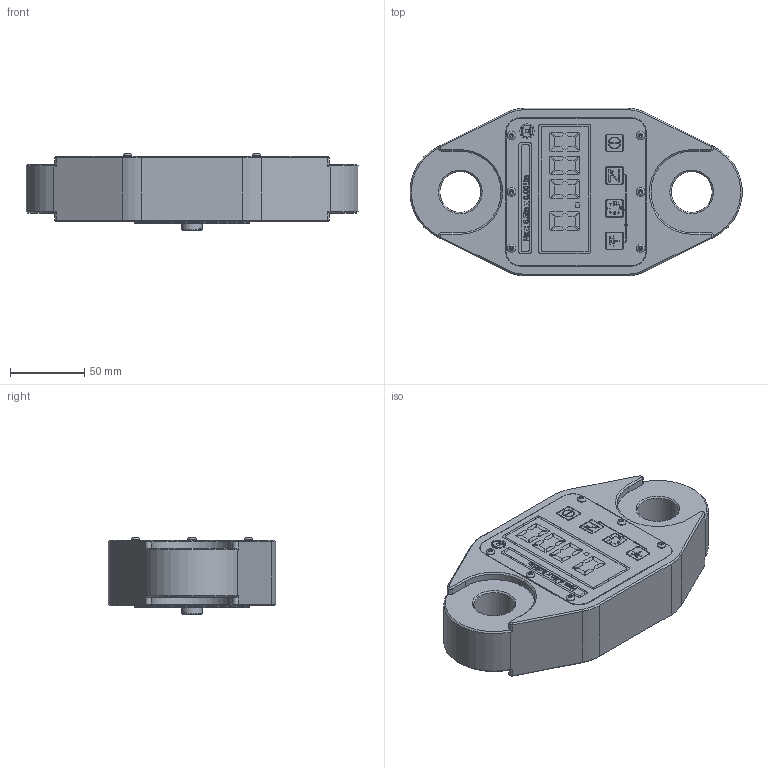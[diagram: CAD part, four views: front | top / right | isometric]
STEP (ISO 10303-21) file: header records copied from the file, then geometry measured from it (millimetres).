
FILE_DESCRIPTION(/* description */ (''),/* implementation_level */ '2;1');
FILE_NAME(/* name */ 'SID6.5T.stp',/* time_stamp */ '2025-01-15T11:19:50Z',/* author */ ('Achacko'),/* organization */ (''),/* preprocessor_version */ 'ST-DEVELOPER v20',/* originating_system */ 'Autodesk Inventor 2025',/* authorisation */ '');
FILE_SCHEMA (('AUTOMOTIVE_DESIGN { 1 0 10303 214 3 1 1 }'));
Length unit declared in the file: millimetre
Products named in the file (1): SID6.5T_Simplify_1
Bounding box: 223.75 x 113 x 51.77 mm (x, y, z)
Volume: 769774.1 mm3; surface area: 75199.4 mm2
Topology: 1 solids, 1 shells, 1476 faces, 3913 edges, 2572 vertices
Faces by surface type: plane 951, bspline 287, cylinder 181, cone 42, torus 15
Full cylindrical faces by diameter (mm): 2.1 x1, 2.5 x1, 5 x1, 5.7 x12, 7.2 x1, 8 x5, 8.1 x1, 12 x3, 14 x1, 16 x1, 27.5 x2, 78 x3
Entity records: 49758 total; most frequent: CARTESIAN_POINT 13253, ORIENTED_EDGE 7804, DIRECTION 6083, EDGE_CURVE 3902, LINE 2745, VECTOR 2745, VERTEX_POINT 2572, AXIS2_PLACEMENT_3D 1669
